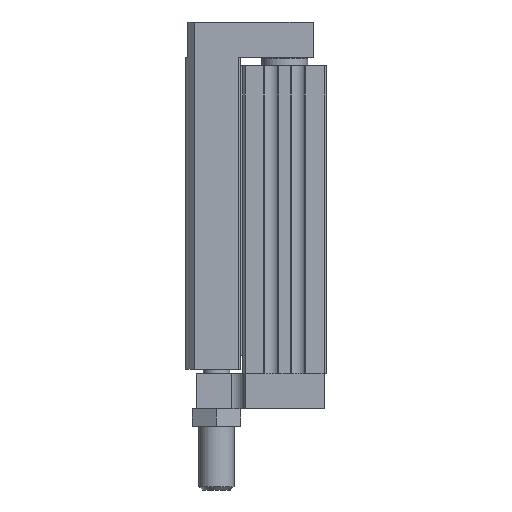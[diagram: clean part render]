
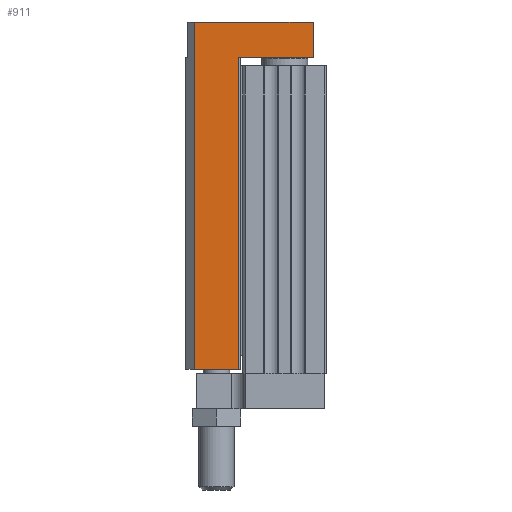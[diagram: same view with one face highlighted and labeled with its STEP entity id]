
A CAD part, left-side view. The second image highlights one B-rep face of the part: STEP entity #911.
In plain terms, the highlighted planar face has unit normal (-1, 0, 0).
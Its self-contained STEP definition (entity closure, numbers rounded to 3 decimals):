
#911 = ADVANCED_FACE( '', ( #2158 ), #2159, .T. );
#2158 = FACE_OUTER_BOUND( '', #3788, .T. );
#2159 = PLANE( '', #3789 );
#3788 = EDGE_LOOP( '', ( #6371, #6372, #6373, #6374, #6375, #6376 ) );
#3789 = AXIS2_PLACEMENT_3D( '', #6377, #6378, #6379 );
#6371 = ORIENTED_EDGE( '', *, *, #9439, .T. );
#6372 = ORIENTED_EDGE( '', *, *, #8850, .T. );
#6373 = ORIENTED_EDGE( '', *, *, #9191, .F. );
#6374 = ORIENTED_EDGE( '', *, *, #9421, .F. );
#6375 = ORIENTED_EDGE( '', *, *, #9664, .F. );
#6376 = ORIENTED_EDGE( '', *, *, #9665, .T. );
#6377 = CARTESIAN_POINT( '', ( -25., 30., -71. ) );
#6378 = DIRECTION( '', ( -1., 0., 0. ) );
#6379 = DIRECTION( '', ( 0., 0., 1. ) );
#8850 = EDGE_CURVE( '', #10435, #10433, #10436, .T. );
#9191 = EDGE_CURVE( '', #11024, #10433, #11026, .T. );
#9421 = EDGE_CURVE( '', #11406, #11024, #11408, .T. );
#9439 = EDGE_CURVE( '', #11435, #10435, #11436, .T. );
#9664 = EDGE_CURVE( '', #11782, #11406, #11783, .T. );
#9665 = EDGE_CURVE( '', #11782, #11435, #11784, .T. );
#10433 = VERTEX_POINT( '', #12757 );
#10435 = VERTEX_POINT( '', #12760 );
#10436 = LINE( '', #12761, #12762 );
#11024 = VERTEX_POINT( '', #13563 );
#11026 = LINE( '', #13566, #13567 );
#11406 = VERTEX_POINT( '', #14087 );
#11408 = LINE( '', #14090, #14091 );
#11435 = VERTEX_POINT( '', #14131 );
#11436 = LINE( '', #14132, #14133 );
#11782 = VERTEX_POINT( '', #14619 );
#11783 = LINE( '', #14620, #14621 );
#11784 = LINE( '', #14622, #14623 );
#12757 = CARTESIAN_POINT( '', ( -25., 3., 0. ) );
#12760 = CARTESIAN_POINT( '', ( -25., 20., 0. ) );
#12761 = CARTESIAN_POINT( '', ( -25., 30., 0. ) );
#12762 = VECTOR( '', #15777, 1000. );
#13563 = CARTESIAN_POINT( '', ( -25., 3., 8. ) );
#13566 = CARTESIAN_POINT( '', ( -25., 3., 8. ) );
#13567 = VECTOR( '', #16157, 1000. );
#14087 = CARTESIAN_POINT( '', ( -25., 30., 8. ) );
#14090 = CARTESIAN_POINT( '', ( -25., 30., 8. ) );
#14091 = VECTOR( '', #16440, 1000. );
#14131 = CARTESIAN_POINT( '', ( -25., 20., -71. ) );
#14132 = CARTESIAN_POINT( '', ( -25., 20., -71. ) );
#14133 = VECTOR( '', #16454, 1000. );
#14619 = CARTESIAN_POINT( '', ( -25., 30., -71. ) );
#14620 = CARTESIAN_POINT( '', ( -25., 30., -71. ) );
#14621 = VECTOR( '', #16685, 1000. );
#14622 = CARTESIAN_POINT( '', ( -25., 30., -71. ) );
#14623 = VECTOR( '', #16686, 1000. );
#15777 = DIRECTION( '', ( 0., -1., 0. ) );
#16157 = DIRECTION( '', ( 0., 0., -1. ) );
#16440 = DIRECTION( '', ( 0., -1., 0. ) );
#16454 = DIRECTION( '', ( 0., 0., 1. ) );
#16685 = DIRECTION( '', ( 0., 0., 1. ) );
#16686 = DIRECTION( '', ( 0., -1., 0. ) );
